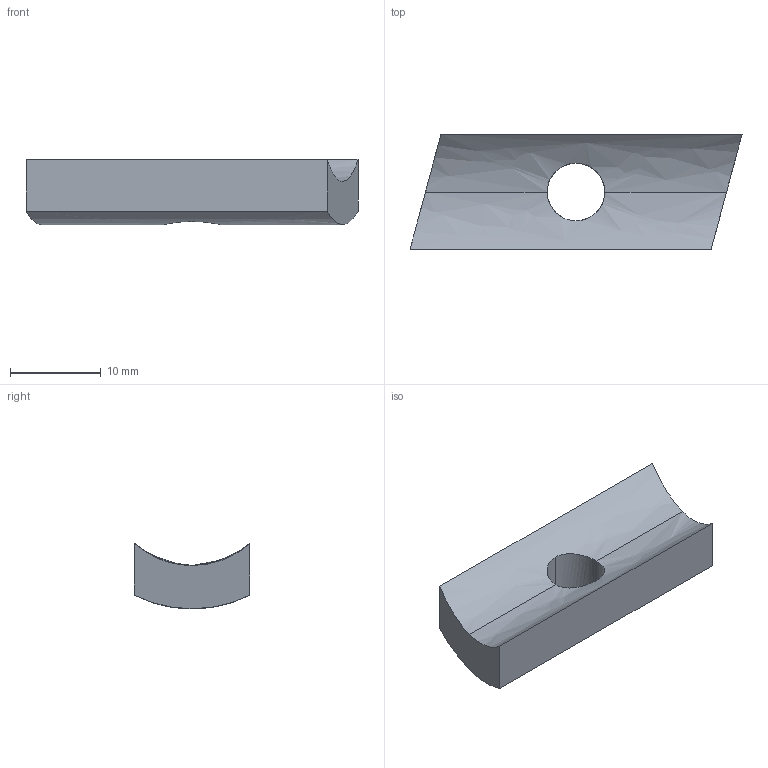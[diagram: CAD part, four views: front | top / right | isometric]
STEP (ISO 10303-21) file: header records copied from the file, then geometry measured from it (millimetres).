
FILE_DESCRIPTION(('TurboCAD Mac Pro'),'Build 980');
FILE_NAME('A3016-1420.stp',' ',(''),(''),'ACIS Interop','IMSI','TurboCAD Mac Pro BY IMSI, INCORPORATED');
FILE_SCHEMA(('automotive_design'));
Length unit declared in the file: inch
Products named in the file (1): 1
Bounding box: 36.51 x 12.7 x 7.2 mm (x, y, z)
Volume: 1967.6 mm3; surface area: 1439.4 mm2
Topology: 1 solids, 1 shells, 12 faces, 36 edges, 24 vertices
Faces by surface type: bspline 8, plane 4
Entity records: 658 total; most frequent: CARTESIAN_POINT 275, ORIENTED_EDGE 72, EDGE_CURVE 36, DIRECTION 24, VERTEX_POINT 24, B_SPLINE_CURVE_WITH_KNOTS 22, LINE 14, VECTOR 14
